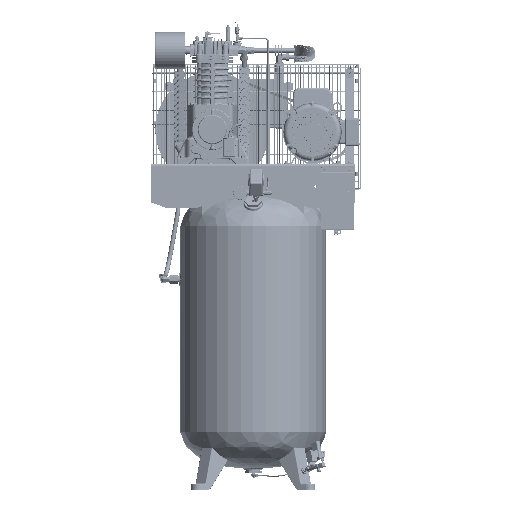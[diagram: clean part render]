
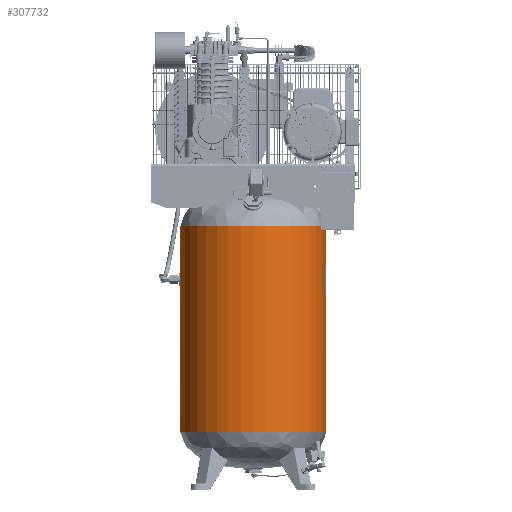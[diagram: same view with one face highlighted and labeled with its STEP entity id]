
A CAD part, top view. The second image highlights one B-rep face of the part: STEP entity #307732.
In plain terms, the highlighted cylindrical face has radius 304.8 mm (diameter 609.6 mm), a full revolution.
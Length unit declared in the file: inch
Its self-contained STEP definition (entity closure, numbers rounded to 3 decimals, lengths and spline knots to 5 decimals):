
#23928=FACE_BOUND('',#102575,.T.);
#40987=LINE('',#611156,#58645);
#40992=LINE('',#611167,#58650);
#41001=LINE('',#613022,#58659);
#41002=LINE('',#613039,#58660);
#58645=VECTOR('',#400725,0.3937);
#58650=VECTOR('',#400736,0.3937);
#58659=VECTOR('',#400873,12.);
#58660=VECTOR('',#400874,12.);
#69715=CYLINDRICAL_SURFACE('',#336123,12.);
#82617=FACE_OUTER_BOUND('',#102574,.T.);
#102574=EDGE_LOOP('',(#255161,#255162,#255163,#255164,#255165,#255166,#255167,
#255168,#255169,#255170,#255171));
#102575=EDGE_LOOP('',(#255172,#255173,#255174,#255175));
#120885=CIRCLE('',#336054,12.);
#120888=CIRCLE('',#336061,12.);
#120900=CIRCLE('',#336081,12.);
#120901=CIRCLE('',#336082,12.);
#120920=CIRCLE('',#336114,12.);
#120921=CIRCLE('',#336115,12.);
#131296=B_SPLINE_CURVE_WITH_KNOTS('',3,(#613024,#613025,#613026,#613027,
#613028,#613029,#613030),.UNSPECIFIED.,.F.,.F.,(4,1,1,1,4),(-16.06503,
-14.91753,-13.77003,-12.62252,-12.04874),
 .UNSPECIFIED.);
#131297=B_SPLINE_CURVE_WITH_KNOTS('',3,(#613032,#613033,#613034,#613035,
#613036,#613037,#613038),.UNSPECIFIED.,.F.,.F.,(4,1,1,1,4),(-4.01625,
-3.82501,-2.295,-1.1475,0.),.UNSPECIFIED.);
#131298=B_SPLINE_CURVE_WITH_KNOTS('',3,(#613040,#613041,#613042,#613043,
#613044,#613045,#613046,#613047,#613048,#613049,#613050,#613051,#613052),
 .UNSPECIFIED.,.F.,.F.,(4,1,1,1,1,1,1,1,1,1,4),(-12.0486,-11.47502,
-10.71002,-9.18002,-8.41502,-7.65001,
-6.88501,-6.12001,-4.59001,-4.20751,
-4.01629),.UNSPECIFIED.);
#149043=VERTEX_POINT('',#611146);
#149044=VERTEX_POINT('',#611147);
#149047=VERTEX_POINT('',#611155);
#149050=VERTEX_POINT('',#611165);
#149065=VERTEX_POINT('',#611541);
#149066=VERTEX_POINT('',#611545);
#149143=VERTEX_POINT('',#612824);
#149144=VERTEX_POINT('',#612828);
#149152=VERTEX_POINT('',#613021);
#149153=VERTEX_POINT('',#613023);
#149154=VERTEX_POINT('',#613031);
#185826=EDGE_CURVE('',#149043,#149044,#120885,.T.);
#185830=EDGE_CURVE('',#149047,#149043,#40987,.T.);
#185836=EDGE_CURVE('',#149044,#149050,#40992,.T.);
#185837=EDGE_CURVE('',#149050,#149047,#120888,.T.);
#185859=EDGE_CURVE('',#149065,#149066,#120900,.T.);
#185860=EDGE_CURVE('',#149066,#149065,#120901,.T.);
#185949=EDGE_CURVE('',#149144,#149143,#120920,.T.);
#185950=EDGE_CURVE('',#149143,#149144,#120921,.T.);
#185961=EDGE_CURVE('',#149066,#149152,#41001,.T.);
#185962=EDGE_CURVE('',#149153,#149152,#131296,.T.);
#185963=EDGE_CURVE('',#149154,#149153,#131297,.T.);
#185964=EDGE_CURVE('',#149154,#149144,#41002,.T.);
#185965=EDGE_CURVE('',#149152,#149154,#131298,.T.);
#255161=ORIENTED_EDGE('',*,*,#185859,.F.);
#255162=ORIENTED_EDGE('',*,*,#185860,.F.);
#255163=ORIENTED_EDGE('',*,*,#185961,.T.);
#255164=ORIENTED_EDGE('',*,*,#185962,.F.);
#255165=ORIENTED_EDGE('',*,*,#185963,.F.);
#255166=ORIENTED_EDGE('',*,*,#185964,.T.);
#255167=ORIENTED_EDGE('',*,*,#185949,.T.);
#255168=ORIENTED_EDGE('',*,*,#185950,.T.);
#255169=ORIENTED_EDGE('',*,*,#185964,.F.);
#255170=ORIENTED_EDGE('',*,*,#185965,.F.);
#255171=ORIENTED_EDGE('',*,*,#185961,.F.);
#255172=ORIENTED_EDGE('',*,*,#185837,.T.);
#255173=ORIENTED_EDGE('',*,*,#185830,.T.);
#255174=ORIENTED_EDGE('',*,*,#185826,.T.);
#255175=ORIENTED_EDGE('',*,*,#185836,.T.);
#307732=ADVANCED_FACE('',(#82617,#23928),#69715,.T.);
#336054=AXIS2_PLACEMENT_3D('',#611148,#400717,#400718);
#336061=AXIS2_PLACEMENT_3D('',#611169,#400739,#400740);
#336081=AXIS2_PLACEMENT_3D('',#611546,#400782,#400783);
#336082=AXIS2_PLACEMENT_3D('',#611547,#400784,#400785);
#336114=AXIS2_PLACEMENT_3D('',#612829,#400852,#400853);
#336115=AXIS2_PLACEMENT_3D('',#612830,#400854,#400855);
#336123=AXIS2_PLACEMENT_3D('',#613020,#400871,#400872);
#400717=DIRECTION('center_axis',(0.,-1.,0.));
#400718=DIRECTION('ref_axis',(1.,0.,0.));
#400725=DIRECTION('',(0.,-1.,0.));
#400736=DIRECTION('',(0.,1.,0.));
#400739=DIRECTION('center_axis',(0.,1.,0.));
#400740=DIRECTION('ref_axis',(1.,0.,0.));
#400782=DIRECTION('center_axis',(0.,-1.,0.));
#400783=DIRECTION('ref_axis',(1.,0.,0.));
#400784=DIRECTION('center_axis',(0.,-1.,0.));
#400785=DIRECTION('ref_axis',(1.,0.,0.));
#400852=DIRECTION('center_axis',(0.,-1.,0.));
#400853=DIRECTION('ref_axis',(1.,0.,0.));
#400854=DIRECTION('center_axis',(0.,-1.,0.));
#400855=DIRECTION('ref_axis',(1.,0.,0.));
#400871=DIRECTION('center_axis',(0.,-1.,0.));
#400872=DIRECTION('ref_axis',(1.,0.,0.));
#400873=DIRECTION('',(0.,1.,0.));
#400874=DIRECTION('',(0.,1.,0.));
#611146=CARTESIAN_POINT('',(11.81035,5.75,-2.125));
#611147=CARTESIAN_POINT('',(11.81035,5.75,2.125));
#611148=CARTESIAN_POINT('Origin',(0.,5.75,
0.));
#611155=CARTESIAN_POINT('',(11.81035,10.25,-2.125));
#611156=CARTESIAN_POINT('',(11.81035,0.,-2.125));
#611165=CARTESIAN_POINT('',(11.81035,10.25,2.125));
#611167=CARTESIAN_POINT('',(11.81035,0.,2.125));
#611169=CARTESIAN_POINT('Origin',(0.,10.25,0.));
#611541=CARTESIAN_POINT('',(12.,-17.,0.));
#611545=CARTESIAN_POINT('',(-12.,-17.,0.));
#611546=CARTESIAN_POINT('Origin',(0.,-17.,0.));
#611547=CARTESIAN_POINT('Origin',(0.,-17.,0.));
#612824=CARTESIAN_POINT('',(12.,17.,0.));
#612828=CARTESIAN_POINT('',(-12.,17.,0.));
#612829=CARTESIAN_POINT('Origin',(0.,17.,0.));
#612830=CARTESIAN_POINT('Origin',(0.,17.,0.));
#613020=CARTESIAN_POINT('Origin',(0.,0.,
0.));
#613021=CARTESIAN_POINT('',(-11.99995,7.03006,-0.00003));
#613022=CARTESIAN_POINT('',(-12.,0.,0.));
#613023=CARTESIAN_POINT('',(-11.94501,8.1795,-1.14748));
#613024=CARTESIAN_POINT('Ctrl Pts',(-11.94501,8.1795,
-1.14748));
#613025=CARTESIAN_POINT('Ctrl Pts',(-11.94501,8.00669,
-1.14748));
#613026=CARTESIAN_POINT('Ctrl Pts',(-11.953,7.66126,
-1.06824));
#613027=CARTESIAN_POINT('Ctrl Pts',(-11.97971,7.24841,
-0.73777));
#613028=CARTESIAN_POINT('Ctrl Pts',(-11.99733,7.05835,
-0.34206));
#613029=CARTESIAN_POINT('Ctrl Pts',(-11.99995,7.03003,
-0.08558));
#613030=CARTESIAN_POINT('Ctrl Pts',(-11.99995,7.03006,-0.00006));
#613031=CARTESIAN_POINT('',(-12.00004,9.32926,-0.00002));
#613032=CARTESIAN_POINT('Ctrl Pts',(-12.00004,9.32926,
-0.00002));
#613033=CARTESIAN_POINT('Ctrl Pts',(-12.00005,9.32929,
-0.02853));
#613034=CARTESIAN_POINT('Ctrl Pts',(-11.99923,9.32001,
-0.28512));
#613035=CARTESIAN_POINT('Ctrl Pts',(-11.98285,9.15698,
-0.7011));
#613036=CARTESIAN_POINT('Ctrl Pts',(-11.9529,8.69749,
-1.06816));
#613037=CARTESIAN_POINT('Ctrl Pts',(-11.94501,8.35231,
-1.14748));
#613038=CARTESIAN_POINT('Ctrl Pts',(-11.94501,8.1795,
-1.14748));
#613039=CARTESIAN_POINT('',(-12.,0.,0.));
#613040=CARTESIAN_POINT('Ctrl Pts',(-11.99995,7.03006,
0.));
#613041=CARTESIAN_POINT('Ctrl Pts',(-11.99995,7.03009,
0.08548));
#613042=CARTESIAN_POINT('Ctrl Pts',(-11.99789,7.05227,0.28501));
#613043=CARTESIAN_POINT('Ctrl Pts',(-11.98331,7.20972,
0.68825));
#613044=CARTESIAN_POINT('Ctrl Pts',(-11.95769,7.5592,
1.01466));
#613045=CARTESIAN_POINT('Ctrl Pts',(-11.94461,8.00478,1.1516));
#613046=CARTESIAN_POINT('Ctrl Pts',(-11.94461,8.35426,
1.15188));
#613047=CARTESIAN_POINT('Ctrl Pts',(-11.95437,8.6878,
1.04841));
#613048=CARTESIAN_POINT('Ctrl Pts',(-11.97594,9.0712,
0.78672));
#613049=CARTESIAN_POINT('Ctrl Pts',(-11.99542,9.27983,
0.42525));
#613050=CARTESIAN_POINT('Ctrl Pts',(-11.99969,9.32595,
0.11406));
#613051=CARTESIAN_POINT('Ctrl Pts',(-12.00003,9.32923,
0.02851));
#613052=CARTESIAN_POINT('Ctrl Pts',(-12.00004,9.32926,
0.));
